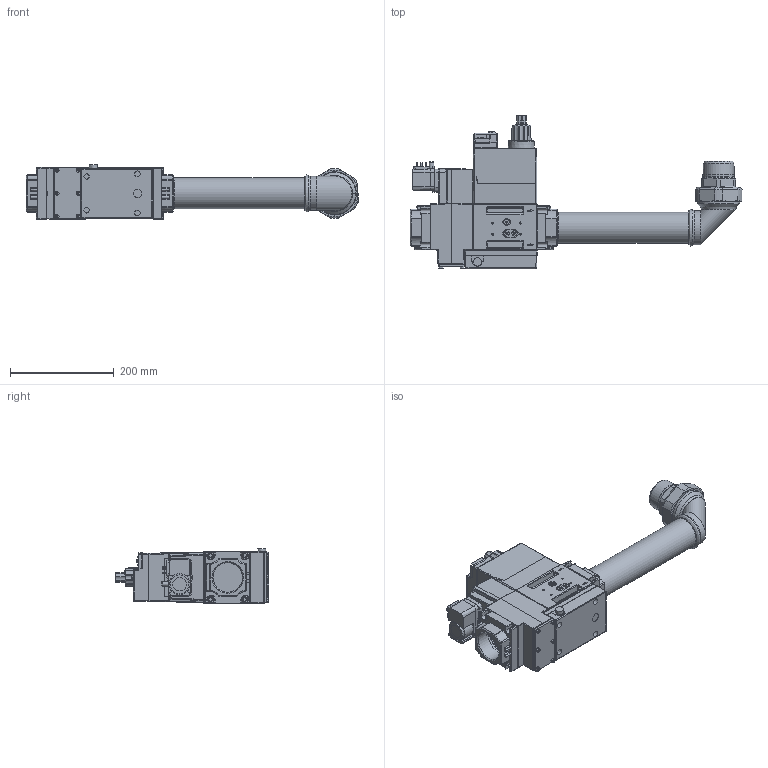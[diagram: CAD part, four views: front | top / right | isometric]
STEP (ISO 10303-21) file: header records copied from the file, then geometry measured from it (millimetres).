
FILE_DESCRIPTION (( 'STEP AP214' ), '1' );
FILE_NAME ('19990549.STEP', '2023-11-08T09:20:58', ( '' ), ( '' ), 'SwSTEP 2.0', 'SolidWorks 2021', '' );
FILE_SCHEMA (( 'AUTOMOTIVE_DESIGN' ));
Length unit declared in the file: millimetre
Products named in the file (7): 30506-102399; 0005090300-112651; 19990549; 0005090115-102402; 0005090300-112652-AUTO; 0005040038-03745; 34782-102401
Assembly tree (7 placements, depth 3):
  19990549
    30506-102399
    34782-102401
    0005090115-102402  x2
    0005090300-112651
      0005090300-112652-AUTO
      0005040038-03745
Bounding box: 640.7 x 296 x 106.08 mm (x, y, z)
Volume: 1069646.9 mm3; surface area: 541442.8 mm2
Topology: 7 solids, 566 shells, 2383 faces, 7053 edges, 5230 vertices
Faces by surface type: plane 926, cylinder 706, bspline 489, cone 189, torus 62, sphere 11
Full cylindrical faces by diameter (mm): 0.7 x2, 1.5 x4, 2 x1, 2.5 x8, 3.7 x3, 4 x4, 6.647 x8, 6.75 x2, 6.917 x8, 8 x3, 8.5 x6, 8.57 x1, 9 x1, 9.3 x1, 10 x3, 10.5 x6, 10.6 x1, 10.96 x2, 11 x7, 15 x3, 15.2 x1, 15.3 x1, 26 x1, 36.15 x1, 50 x1, 53 x1, 56.656 x1, 57 x2, 60.25 x1, 60.3 x1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
Entity records: 162080 total; most frequent: CARTESIAN_POINT 87907, ORIENTED_EDGE 10328, DIRECTION 8727, EDGE_CURVE 6288, VERTEX_POINT 4896, AXIS2_PLACEMENT_3D 3020, LINE 2687, VECTOR 2687
